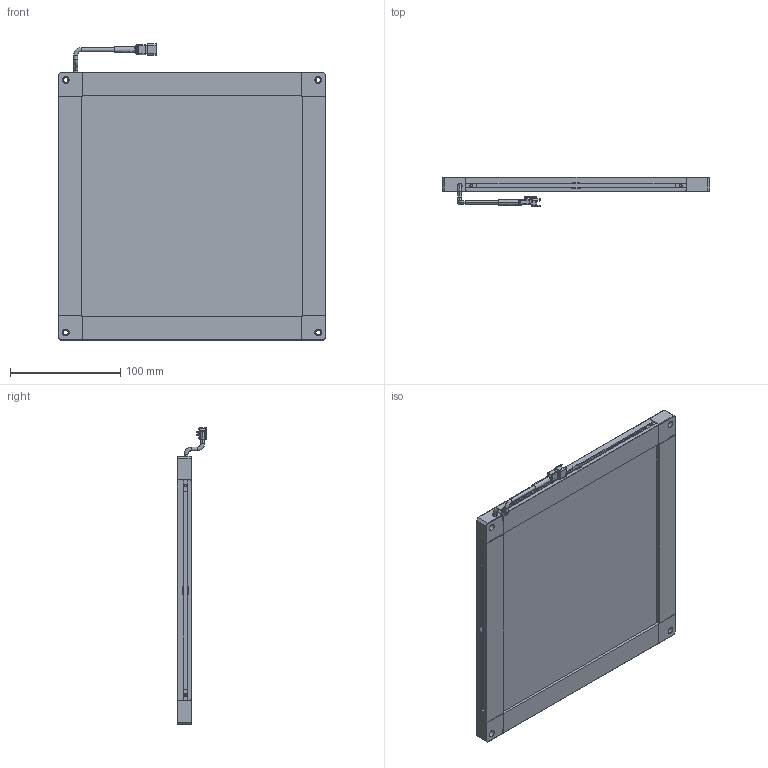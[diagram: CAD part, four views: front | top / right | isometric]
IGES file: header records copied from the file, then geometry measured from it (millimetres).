
Start section: SolidWorks IGES file using NURBS representation for surfaces
Bounding box: 243 x 27.1 x 268.85 mm (x, y, z)
Surface area: 157581.3 mm2 (no closed solid volume)
Topology: 0 solids, 0 shells, 562 faces, 4615 edges, 4615 vertices
Faces by surface type: bspline 562
